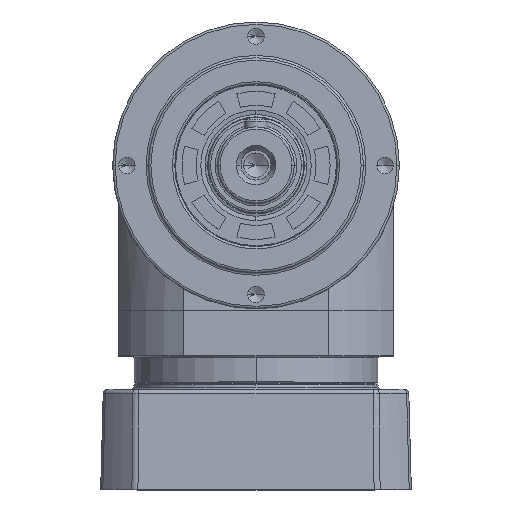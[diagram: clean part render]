
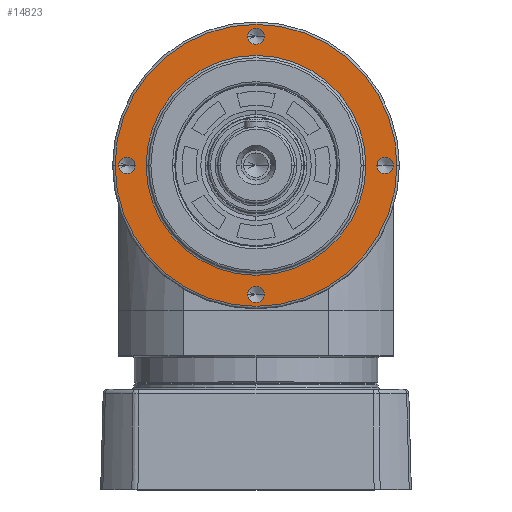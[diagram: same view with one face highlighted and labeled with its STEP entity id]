
A CAD part, top view. The second image highlights one B-rep face of the part: STEP entity #14823.
In plain terms, the highlighted planar face has unit normal (0, 0, 1).
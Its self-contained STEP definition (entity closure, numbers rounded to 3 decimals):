
#640 = CARTESIAN_POINT ( 'NONE',  ( 0., -54., 63.5 ) ) ;
#826 = AXIS2_PLACEMENT_3D ( 'NONE', #37180, #55951, #63817 ) ;
#1733 = VERTEX_POINT ( 'NONE', #41272 ) ;
#2078 = EDGE_LOOP ( 'NONE', ( #63861, #41884 ) ) ;
#3043 = DIRECTION ( 'NONE',  ( 0., 0., -1. ) ) ;
#4277 = CARTESIAN_POINT ( 'NONE',  ( 54., 0., 63.5 ) ) ;
#4937 = VERTEX_POINT ( 'NONE', #54067 ) ;
#5256 = EDGE_CURVE ( 'NONE', #4937, #43437, #38717, .T. ) ;
#5494 = AXIS2_PLACEMENT_3D ( 'NONE', #41537, #66572, #34883 ) ;
#6300 = ORIENTED_EDGE ( 'NONE', *, *, #10227, .T. ) ;
#8103 = EDGE_CURVE ( 'NONE', #54832, #33102, #53744, .T. ) ;
#9685 = CARTESIAN_POINT ( 'NONE',  ( 0., -54., 63.5 ) ) ;
#10227 = EDGE_CURVE ( 'NONE', #67528, #72002, #79178, .T. ) ;
#10347 = EDGE_CURVE ( 'NONE', #78879, #79187, #43775, .T. ) ;
#10512 = DIRECTION ( 'NONE',  ( 1., 0., 0. ) ) ;
#10595 = EDGE_CURVE ( 'NONE', #73163, #1733, #51609, .T. ) ;
#10710 = CARTESIAN_POINT ( 'NONE',  ( 0., 0., 63.5 ) ) ;
#11319 = CIRCLE ( 'NONE', #67363, 59. ) ;
#12477 = CARTESIAN_POINT ( 'NONE',  ( 46., 0., 63.5 ) ) ;
#13067 = EDGE_CURVE ( 'NONE', #72002, #67528, #34299, .T. ) ;
#14823 = ADVANCED_FACE ( 'NONE', ( #54711, #61700, #80581, #42548, #43386, #16642 ), #60485, .T. ) ;
#14838 = CIRCLE ( 'NONE', #80258, 3.4 ) ;
#15898 = AXIS2_PLACEMENT_3D ( 'NONE', #76755, #33278, #82192 ) ;
#16210 = EDGE_LOOP ( 'NONE', ( #70652, #35905 ) ) ;
#16214 = DIRECTION ( 'NONE',  ( 0., 0., -1. ) ) ;
#16374 = CARTESIAN_POINT ( 'NONE',  ( -3.4, -54., 63.5 ) ) ;
#16642 = FACE_BOUND ( 'NONE', #2078, .T. ) ;
#16781 = EDGE_LOOP ( 'NONE', ( #79371, #61314 ) ) ;
#17830 = DIRECTION ( 'NONE',  ( 0., 0., -1. ) ) ;
#17855 = CARTESIAN_POINT ( 'NONE',  ( -54., 0., 63.5 ) ) ;
#19102 = DIRECTION ( 'NONE',  ( 1., 0., 0. ) ) ;
#21017 = AXIS2_PLACEMENT_3D ( 'NONE', #62130, #49699, #55900 ) ;
#21958 = DIRECTION ( 'NONE',  ( 0., 0., -1. ) ) ;
#22362 = CIRCLE ( 'NONE', #50367, 46. ) ;
#23812 = DIRECTION ( 'NONE',  ( 0., 0., -1. ) ) ;
#24454 = CARTESIAN_POINT ( 'NONE',  ( 3.4, 54., 63.5 ) ) ;
#25299 = EDGE_CURVE ( 'NONE', #76107, #79398, #36262, .T. ) ;
#29054 = CARTESIAN_POINT ( 'NONE',  ( 0., 54., 63.5 ) ) ;
#29095 = AXIS2_PLACEMENT_3D ( 'NONE', #63511, #37270, #68563 ) ;
#29122 = EDGE_CURVE ( 'NONE', #1733, #73163, #11319, .T. ) ;
#29415 = DIRECTION ( 'NONE',  ( 1., 0., 0. ) ) ;
#31370 = ORIENTED_EDGE ( 'NONE', *, *, #36435, .T. ) ;
#32427 = DIRECTION ( 'NONE',  ( 0., 0., -1. ) ) ;
#32477 = DIRECTION ( 'NONE',  ( 1., 0., 0. ) ) ;
#33102 = VERTEX_POINT ( 'NONE', #63941 ) ;
#33278 = DIRECTION ( 'NONE',  ( 0., 0., -1. ) ) ;
#34299 = CIRCLE ( 'NONE', #52966, 3.4 ) ;
#34826 = DIRECTION ( 'NONE',  ( 0., 0., -1. ) ) ;
#34883 = DIRECTION ( 'NONE',  ( 1., 0., 0. ) ) ;
#34912 = EDGE_CURVE ( 'NONE', #33102, #54832, #55944, .T. ) ;
#35905 = ORIENTED_EDGE ( 'NONE', *, *, #8103, .T. ) ;
#36262 = CIRCLE ( 'NONE', #64196, 3.4 ) ;
#36263 = DIRECTION ( 'NONE',  ( 1., 0., 0. ) ) ;
#36435 = EDGE_CURVE ( 'NONE', #43437, #4937, #41582, .T. ) ;
#37180 = CARTESIAN_POINT ( 'NONE',  ( 0., 0., 63.5 ) ) ;
#37270 = DIRECTION ( 'NONE',  ( 0., 0., -1. ) ) ;
#38717 = CIRCLE ( 'NONE', #80062, 3.4 ) ;
#41272 = CARTESIAN_POINT ( 'NONE',  ( 59., 0., 63.5 ) ) ;
#41537 = CARTESIAN_POINT ( 'NONE',  ( -54., 0., 63.5 ) ) ;
#41582 = CIRCLE ( 'NONE', #5494, 3.4 ) ;
#41884 = ORIENTED_EDGE ( 'NONE', *, *, #54252, .T. ) ;
#42548 = FACE_BOUND ( 'NONE', #67868, .T. ) ;
#42577 = CARTESIAN_POINT ( 'NONE',  ( -59., 0., 63.5 ) ) ;
#42837 = CARTESIAN_POINT ( 'NONE',  ( -46., 0., 63.5 ) ) ;
#43363 = DIRECTION ( 'NONE',  ( 0., 0., -1. ) ) ;
#43386 = FACE_OUTER_BOUND ( 'NONE', #16781, .T. ) ;
#43437 = VERTEX_POINT ( 'NONE', #59180 ) ;
#43775 = CIRCLE ( 'NONE', #29095, 46. ) ;
#49699 = DIRECTION ( 'NONE',  ( 0., 0., 1. ) ) ;
#50105 = CARTESIAN_POINT ( 'NONE',  ( 0., 0., 63.5 ) ) ;
#50367 = AXIS2_PLACEMENT_3D ( 'NONE', #50105, #16214, #19102 ) ;
#50780 = ORIENTED_EDGE ( 'NONE', *, *, #82332, .T. ) ;
#51609 = CIRCLE ( 'NONE', #826, 59. ) ;
#52966 = AXIS2_PLACEMENT_3D ( 'NONE', #640, #32427, #57852 ) ;
#53744 = CIRCLE ( 'NONE', #64320, 3.4 ) ;
#54067 = CARTESIAN_POINT ( 'NONE',  ( -57.4, 0., 63.5 ) ) ;
#54252 = EDGE_CURVE ( 'NONE', #79187, #78879, #22362, .T. ) ;
#54711 = FACE_BOUND ( 'NONE', #16210, .T. ) ;
#54832 = VERTEX_POINT ( 'NONE', #56400 ) ;
#55900 = DIRECTION ( 'NONE',  ( 1., 0., 0. ) ) ;
#55944 = CIRCLE ( 'NONE', #15898, 3.4 ) ;
#55951 = DIRECTION ( 'NONE',  ( 0., 0., -1. ) ) ;
#56400 = CARTESIAN_POINT ( 'NONE',  ( 50.6, 0., 63.5 ) ) ;
#57852 = DIRECTION ( 'NONE',  ( 1., 0., 0. ) ) ;
#58476 = ORIENTED_EDGE ( 'NONE', *, *, #13067, .T. ) ;
#59180 = CARTESIAN_POINT ( 'NONE',  ( -50.6, 0., 63.5 ) ) ;
#60485 = PLANE ( 'NONE',  #21017 ) ;
#60684 = EDGE_LOOP ( 'NONE', ( #31370, #64680 ) ) ;
#61314 = ORIENTED_EDGE ( 'NONE', *, *, #10595, .F. ) ;
#61700 = FACE_BOUND ( 'NONE', #73298, .T. ) ;
#62130 = CARTESIAN_POINT ( 'NONE',  ( 0., 0., 63.5 ) ) ;
#62184 = CARTESIAN_POINT ( 'NONE',  ( -3.4, 54., 63.5 ) ) ;
#63511 = CARTESIAN_POINT ( 'NONE',  ( 0., 0., 63.5 ) ) ;
#63817 = DIRECTION ( 'NONE',  ( 1., 0., 0. ) ) ;
#63861 = ORIENTED_EDGE ( 'NONE', *, *, #10347, .T. ) ;
#63941 = CARTESIAN_POINT ( 'NONE',  ( 57.4, 0., 63.5 ) ) ;
#64196 = AXIS2_PLACEMENT_3D ( 'NONE', #67634, #23812, #80608 ) ;
#64320 = AXIS2_PLACEMENT_3D ( 'NONE', #4277, #3043, #29415 ) ;
#64680 = ORIENTED_EDGE ( 'NONE', *, *, #5256, .T. ) ;
#66572 = DIRECTION ( 'NONE',  ( 0., 0., -1. ) ) ;
#67363 = AXIS2_PLACEMENT_3D ( 'NONE', #10710, #17830, #36263 ) ;
#67528 = VERTEX_POINT ( 'NONE', #16374 ) ;
#67634 = CARTESIAN_POINT ( 'NONE',  ( 0., 54., 63.5 ) ) ;
#67868 = EDGE_LOOP ( 'NONE', ( #50780, #72122 ) ) ;
#68563 = DIRECTION ( 'NONE',  ( 1., 0., 0. ) ) ;
#70652 = ORIENTED_EDGE ( 'NONE', *, *, #34912, .T. ) ;
#71546 = CARTESIAN_POINT ( 'NONE',  ( 3.4, -54., 63.5 ) ) ;
#72002 = VERTEX_POINT ( 'NONE', #71546 ) ;
#72122 = ORIENTED_EDGE ( 'NONE', *, *, #25299, .T. ) ;
#73163 = VERTEX_POINT ( 'NONE', #42577 ) ;
#73298 = EDGE_LOOP ( 'NONE', ( #58476, #6300 ) ) ;
#75217 = AXIS2_PLACEMENT_3D ( 'NONE', #9685, #34826, #10512 ) ;
#76107 = VERTEX_POINT ( 'NONE', #62184 ) ;
#76755 = CARTESIAN_POINT ( 'NONE',  ( 54., 0., 63.5 ) ) ;
#78761 = DIRECTION ( 'NONE',  ( 1., 0., 0. ) ) ;
#78879 = VERTEX_POINT ( 'NONE', #12477 ) ;
#79178 = CIRCLE ( 'NONE', #75217, 3.4 ) ;
#79187 = VERTEX_POINT ( 'NONE', #42837 ) ;
#79371 = ORIENTED_EDGE ( 'NONE', *, *, #29122, .F. ) ;
#79398 = VERTEX_POINT ( 'NONE', #24454 ) ;
#80062 = AXIS2_PLACEMENT_3D ( 'NONE', #17855, #43363, #32477 ) ;
#80258 = AXIS2_PLACEMENT_3D ( 'NONE', #29054, #21958, #78761 ) ;
#80581 = FACE_BOUND ( 'NONE', #60684, .T. ) ;
#80608 = DIRECTION ( 'NONE',  ( 1., 0., 0. ) ) ;
#82192 = DIRECTION ( 'NONE',  ( 1., 0., 0. ) ) ;
#82332 = EDGE_CURVE ( 'NONE', #79398, #76107, #14838, .T. ) ;
